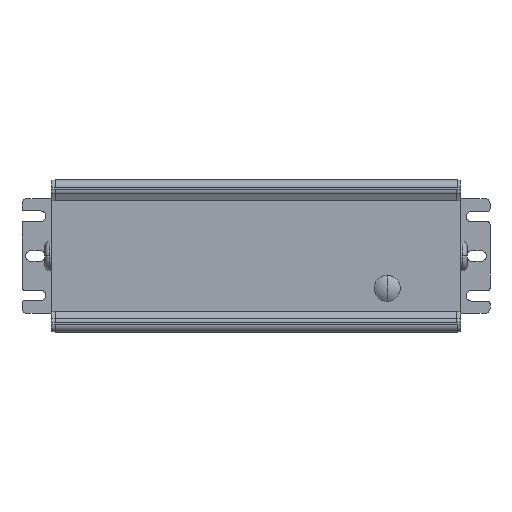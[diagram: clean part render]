
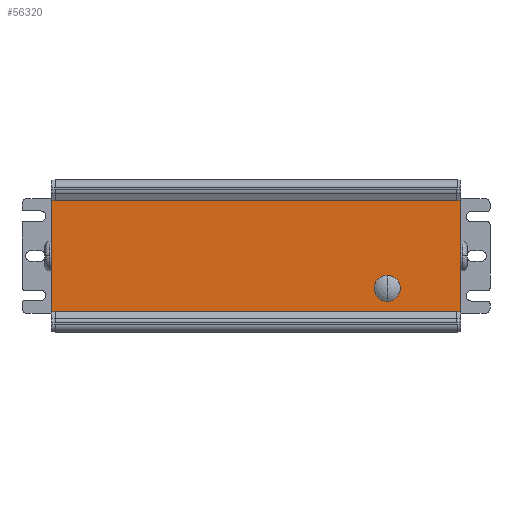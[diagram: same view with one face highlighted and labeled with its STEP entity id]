
A CAD part, front view. The second image highlights one B-rep face of the part: STEP entity #56320.
In plain terms, the highlighted planar face has unit normal (0, -1, 0).
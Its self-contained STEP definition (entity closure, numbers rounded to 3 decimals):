
#7920=CARTESIAN_POINT('',(63.1,-27.745,
-22.367));
#7930=VERTEX_POINT('',#7920);
#7960=CARTESIAN_POINT('',(63.1,-27.745,
29.702));
#7970=DIRECTION('',(0.,0.,-1.));
#7980=VECTOR('',#7970,1.);
#7990=LINE('',#7960,#7980);
#8000=CARTESIAN_POINT('',(63.1,-27.745,
22.673));
#8010=VERTEX_POINT('',#8000);
#8020=EDGE_CURVE('',#8010,#7930,#7990,.T.);
#13380=CARTESIAN_POINT('',(-102.1,-27.745,
22.667));
#13390=VERTEX_POINT('',#13380);
#13420=CARTESIAN_POINT('',(-102.1,-27.745,
-29.402));
#13430=DIRECTION('',(0.,0.,1.));
#13440=VECTOR('',#13430,1.);
#13450=LINE('',#13420,#13440);
#13460=CARTESIAN_POINT('',(-102.1,-27.745,
-22.373));
#13470=VERTEX_POINT('',#13460);
#13480=EDGE_CURVE('',#13470,#13390,#13450,.T.);
#33920=CARTESIAN_POINT('',(-100.5,-27.745,
-22.443));
#33930=VERTEX_POINT('',#33920);
#33960=CARTESIAN_POINT('',(-100.5,-27.745,
-22.443));
#33970=DIRECTION('',(1.,0.,0.));
#33980=VECTOR('',#33970,1.);
#33990=LINE('',#33960,#33980);
#34000=CARTESIAN_POINT('',(61.5,-27.745,
-22.443));
#34010=VERTEX_POINT('',#34000);
#34020=EDGE_CURVE('',#33930,#34010,#33990,.T.);
#36140=CARTESIAN_POINT('',(61.5,-27.745,
22.737));
#36150=VERTEX_POINT('',#36140);
#36400=CARTESIAN_POINT('',(61.5,-27.745,
22.673));
#36410=VERTEX_POINT('',#36400);
#36440=CARTESIAN_POINT('',(61.5,-27.745,
0.147));
#36450=DIRECTION('',(0.,0.,1.));
#36460=VECTOR('',#36450,1.);
#36470=LINE('',#36440,#36460);
#36480=EDGE_CURVE('',#36410,#36150,#36470,.T.);
#37120=CARTESIAN_POINT('',(-100.5,-27.745,
22.737));
#37130=DIRECTION('',(1.,0.,0.));
#37140=VECTOR('',#37130,1.);
#37150=LINE('',#37120,#37140);
#37160=CARTESIAN_POINT('',(-100.5,-27.745,
22.737));
#37170=VERTEX_POINT('',#37160);
#37180=EDGE_CURVE('',#37170,#36150,#37150,.T.);
#40290=CARTESIAN_POINT('',(28.25,-27.745,
-12.89));
#40300=VERTEX_POINT('',#40290);
#40520=CARTESIAN_POINT('',(38.75,-27.745,
-12.89));
#40530=VERTEX_POINT('',#40520);
#40560=CARTESIAN_POINT('',(33.5,-27.745,
-12.89));
#40570=DIRECTION('',(0.,-1.,0.));
#40580=DIRECTION('',(1.,0.,0.));
#40590=AXIS2_PLACEMENT_3D('',#40560,#40570,#40580);
#40600=CIRCLE('',#40590,5.25);
#40610=EDGE_CURVE('',#40300,#40530,#40600,.T.);
#41630=EDGE_CURVE('',#40530,#40300,#40600,.T.);
#53260=CARTESIAN_POINT('',(61.5,-27.745,
-22.367));
#53270=VERTEX_POINT('',#53260);
#53280=EDGE_CURVE('',#34010,#53270,#36470,.T.);
#53630=CARTESIAN_POINT('',(61.5,-27.745,
-22.367));
#53640=DIRECTION('',(1.,0.,0.));
#53650=VECTOR('',#53640,1.);
#53660=LINE('',#53630,#53650);
#53670=EDGE_CURVE('',#53270,#7930,#53660,.T.);
#54210=CARTESIAN_POINT('',(61.5,-27.745,
22.673));
#54220=DIRECTION('',(1.,0.,0.));
#54230=VECTOR('',#54220,1.);
#54240=LINE('',#54210,#54230);
#54250=EDGE_CURVE('',#36410,#8010,#54240,.T.);
#55380=CARTESIAN_POINT('',(-100.5,-27.745,
0.147));
#55390=DIRECTION('',(0.,0.,-1.));
#55400=VECTOR('',#55390,1.);
#55410=LINE('',#55380,#55400);
#55420=CARTESIAN_POINT('',(-100.5,-27.745,
22.667));
#55430=VERTEX_POINT('',#55420);
#55440=EDGE_CURVE('',#37170,#55430,#55410,.T.);
#55720=CARTESIAN_POINT('',(-100.5,-27.745,
22.667));
#55730=DIRECTION('',(-1.,0.,0.));
#55740=VECTOR('',#55730,1.);
#55750=LINE('',#55720,#55740);
#55760=EDGE_CURVE('',#55430,#13390,#55750,.T.);
#56010=CARTESIAN_POINT('',(-100.5,-27.745,
22.667));
#56020=DIRECTION('',(0.,-1.,0.));
#56030=DIRECTION('',(0.,0.,-1.));
#56040=AXIS2_PLACEMENT_3D('',#56010,#56020,#56030);
#56050=PLANE('',#56040);
#56060=ORIENTED_EDGE('',*,*,#55440,.T.);
#56070=ORIENTED_EDGE('',*,*,#37180,.F.);
#56080=ORIENTED_EDGE('',*,*,#36480,.T.);
#56090=ORIENTED_EDGE('',*,*,#54250,.F.);
#56100=ORIENTED_EDGE('',*,*,#8020,.F.);
#56110=ORIENTED_EDGE('',*,*,#53670,.T.);
#56120=ORIENTED_EDGE('',*,*,#53280,.T.);
#56130=ORIENTED_EDGE('',*,*,#34020,.T.);
#56140=CARTESIAN_POINT('',(-100.5,-27.745,
-22.373));
#56150=VERTEX_POINT('',#56140);
#56160=EDGE_CURVE('',#56150,#33930,#55410,.T.);
#56170=ORIENTED_EDGE('',*,*,#56160,.T.);
#56180=CARTESIAN_POINT('',(-100.5,-27.745,
-22.373));
#56190=DIRECTION('',(-1.,0.,0.));
#56200=VECTOR('',#56190,1.);
#56210=LINE('',#56180,#56200);
#56220=EDGE_CURVE('',#56150,#13470,#56210,.T.);
#56230=ORIENTED_EDGE('',*,*,#56220,.F.);
#56240=ORIENTED_EDGE('',*,*,#13480,.F.);
#56250=ORIENTED_EDGE('',*,*,#55760,.T.);
#56260=EDGE_LOOP('',(#56250,#56240,#56230,#56170,#56130,#56120,#56110,
#56100,#56090,#56080,#56070,#56060));
#56270=FACE_OUTER_BOUND('',#56260,.T.);
#56280=ORIENTED_EDGE('',*,*,#41630,.F.);
#56290=ORIENTED_EDGE('',*,*,#40610,.F.);
#56300=EDGE_LOOP('',(#56290,#56280));
#56310=FACE_BOUND('',#56300,.T.);
#56320=ADVANCED_FACE('',(#56270,#56310),#56050,.T.);
